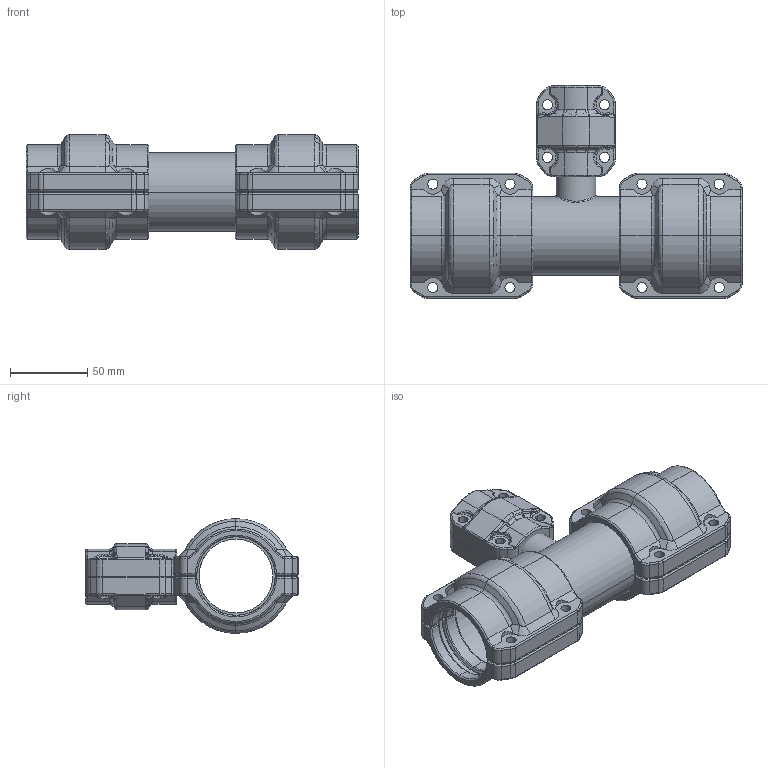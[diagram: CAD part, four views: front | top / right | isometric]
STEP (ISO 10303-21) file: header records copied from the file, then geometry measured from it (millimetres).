
FILE_DESCRIPTION(/* description */ (''),/* implementation_level */ '2;1');
FILE_NAME(/* name */ '5207_stp_stp.stp',/* time_stamp */ '2025-06-23T12:58:30+08:00',/* author */ (''),/* organization */ (''),/* preprocessor_version */ 'ST-DEVELOPER v11',/* originating_system */ 'SIEMENS PLM Software NX 7.5',/* authorisation */ '');
FILE_SCHEMA (('CONFIG_CONTROL_DESIGN'));
Length unit declared in the file: millimetre
Products named in the file (1): AdmiBEADalfz
Bounding box: 215 x 137.9 x 74.3 mm (x, y, z)
Volume: 255528.1 mm3; surface area: 157981.8 mm2
Topology: 7 solids, 7 shells, 1867 faces, 4545 edges, 2685 vertices
Faces by surface type: cylinder 606, bspline 422, torus 400, plane 253, cone 148, sphere 26, extrusion 12
Entity records: 75680 total; most frequent: CARTESIAN_POINT 35489, ORIENTED_EDGE 9054, DIRECTION 7550, EDGE_CURVE 4527, AXIS2_PLACEMENT_3D 3095, VERTEX_POINT 2685, EDGE_LOOP 1930, ADVANCED_FACE 1867
